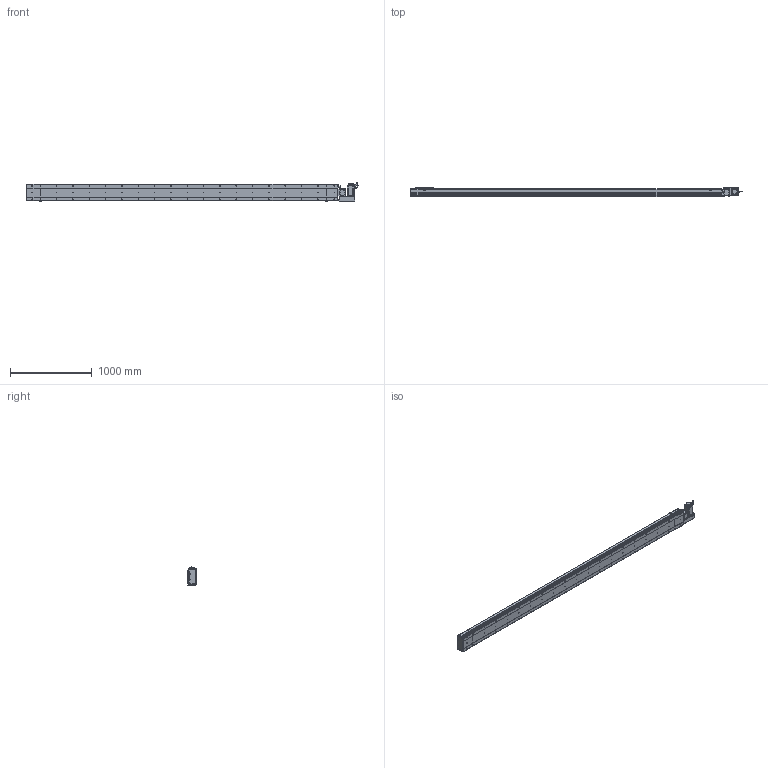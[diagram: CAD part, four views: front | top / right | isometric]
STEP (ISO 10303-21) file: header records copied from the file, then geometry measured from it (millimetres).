
FILE_DESCRIPTION (( 'STEP AP214' ), '1' );
FILE_NAME ('D20 CBH RH S3500.STEP', '2010-06-30T10:58:37', ( 'Conseil Régional Haute-Normandie' ), ( 'Conseil Régional Haute-Normandie' ), 'SwSTEP 2.0', 'SolidWorks 2010', '' );
FILE_SCHEMA (( 'AUTOMOTIVE_DESIGN' ));
Length unit declared in the file: millimetre
Products named in the file (31): Plaque de Bout Head D20 RH_Default; Support moteur RH_Default; Conecteur_Default; Plaque De Serrage D20 RH_Default; Moteur motionking 90BLDC125A-640; ecrou_Default; Cache Support Moteur RH_Default; vis M5 L30_Default; vis M5 L47_Default; Chariot D20_Default; Rondelle Cache D20 RH_Default; Couvercle RH_Default; avant 90BLDC125A-640; Conecteur2_Default; Support Chariot D20_Default; Plaque De Serrage D20_Default; Plaque de Bout Tail D20_Default; Couvercle_Default; vis M5 L15_Default; Corp Tail D20+100_Default; Tail D20+100_Default; Couvercle S3500_Default; Corp S3500_Default; Corp D20 S3500_Default; Glissiere_Default; D20 CBH RH S3500; Head D20 RH_Default; Corp Tail D20 RH_Default; corps 90BLDC125A-640; codeur 90BLDC125-640
Assembly tree (68 placements, depth 4):
  D20 CBH RH S3500
    Chariot D20_Default
      vis M5 L15_Default  x8
      Glissiere_Default
      Chariot D20_Default
      Support Chariot D20_Default
    Tail D20+100_Default
      vis M5 L15_Default  x6
      Plaque De Serrage D20_Default
      Couvercle_Default
      Corp Tail D20+100_Default
      Plaque de Bout Tail D20_Default
    Corp D20 S3500_Default
      Couvercle S3500_Default
      Corp S3500_Default
    Head D20 RH_Default
      vis M5 L30_Default  x4
      vis M5 L15_Default  x14
      vis M5 L47_Default  x4
      ecrou_Default  x4
      Rondelle Cache D20 RH_Default  x3
      Corp Tail D20 RH_Default
      Cache Support Moteur RH_Default
      Moteur motionking 90BLDC125A-640
        Conecteur_Default
        Conecteur2_Default
        avant 90BLDC125A-640
        corps 90BLDC125A-640
        codeur 90BLDC125-640
      Couvercle RH_Default
      Support moteur RH_Default
      Plaque De Serrage D20 RH_Default
      Plaque de Bout Head D20 RH_Default
Bounding box: 4065.45 x 119.5 x 229.7 mm (x, y, z)
Volume: 26400076.3 mm3; surface area: 5051010.7 mm2
Topology: 105 solids, 105 shells, 3892 faces, 9660 edges, 6274 vertices
Faces by surface type: plane 2155, bspline 806, cylinder 760, torus 95, cone 72, sphere 4
Entity records: 161510 total; most frequent: CARTESIAN_POINT 82658, ORIENTED_EDGE 15588, DIRECTION 12022, EDGE_CURVE 7794, VERTEX_POINT 5158, LINE 5002, VECTOR 5002, AXIS2_PLACEMENT_3D 3510
